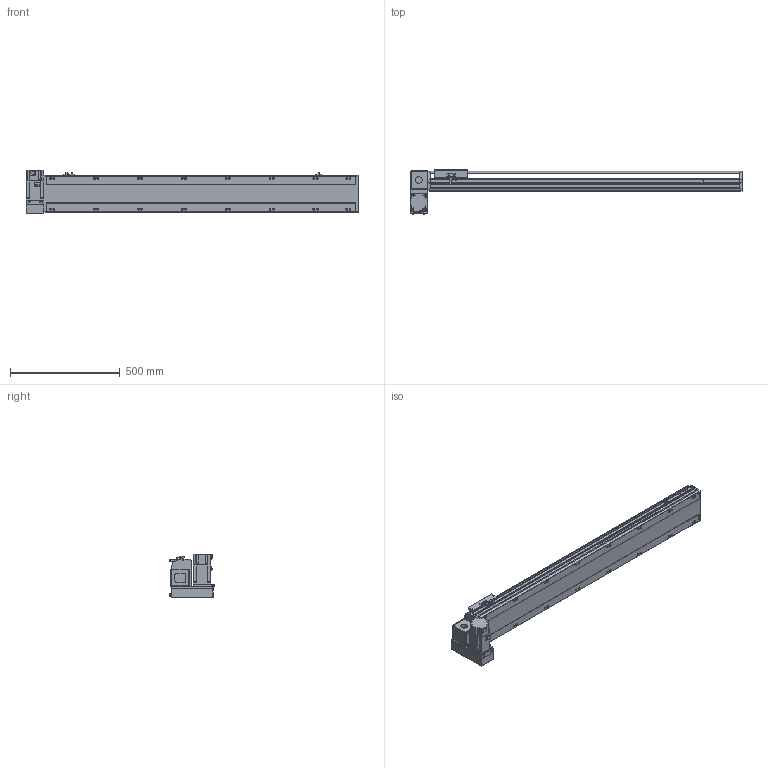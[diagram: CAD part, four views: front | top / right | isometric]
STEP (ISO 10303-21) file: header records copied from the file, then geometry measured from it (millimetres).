
FILE_DESCRIPTION(/* description */ ('STEP AP214'),/* implementation_level */ '2;1');
FILE_NAME(/* name */ 'PBS170-P40-S1150-LD-T75-C1-N(0)',/* time_stamp */ '2022-06-07T09:53:15+02:00',/* author */ ('License CC BY-ND 4.0'),/* organization */ ('CADENAS'),/* preprocessor_version */ 'ST-DEVELOPER v18.102',/* originating_system */ 'PARTsolutions',/* authorisation */ ' ');
FILE_SCHEMA (('PROCESS_PLANNING_SCHEMA','AUTOMOTIVE_DESIGN {1 0 10303 214 3 1 1}'));
Length unit declared in the file: millimetre
Products named in the file (7): PBS170-P40-S1150-LD-T75-C1-N(0); PBS170_sensor; PBS170_plant; PBS170_sliser; T75-p1; PBS170T-LD_motors; PBS170-S1150()_body
Assembly tree (8 placements, depth 2):
  PBS170-P40-S1150-LD-T75-C1-N(0)
    PBS170_sensor  x3
    PBS170_plant
    PBS170_sliser
    T75-p1
    PBS170T-LD_motors
    PBS170-S1150()_body
Bounding box: 1513 x 201 x 197.3 mm (x, y, z)
Volume: 12059799 mm3; surface area: 1568894.4 mm2
Topology: 8 solids, 8 shells, 1082 faces, 2875 edges, 1874 vertices
Faces by surface type: plane 687, cylinder 339, cone 46, sphere 8, torus 2
Full cylindrical faces by diameter (mm): 3.242 x4, 4 x2, 4.4 x4, 4.5 x6, 4.917 x4, 6 x9, 6.647 x24, 7 x2, 7.5 x4, 8 x8, 8.5 x16, 10 x4, 10.5 x16, 11 x2, 30 x2, 40 x1, 70 x1
Entity records: 31118 total; most frequent: CARTESIAN_POINT 5713, DIRECTION 5300, ORIENTED_EDGE 5028, EDGE_CURVE 2514, AXIS2_PLACEMENT_3D 1837, VERTEX_POINT 1730, LINE 1626, VECTOR 1626
